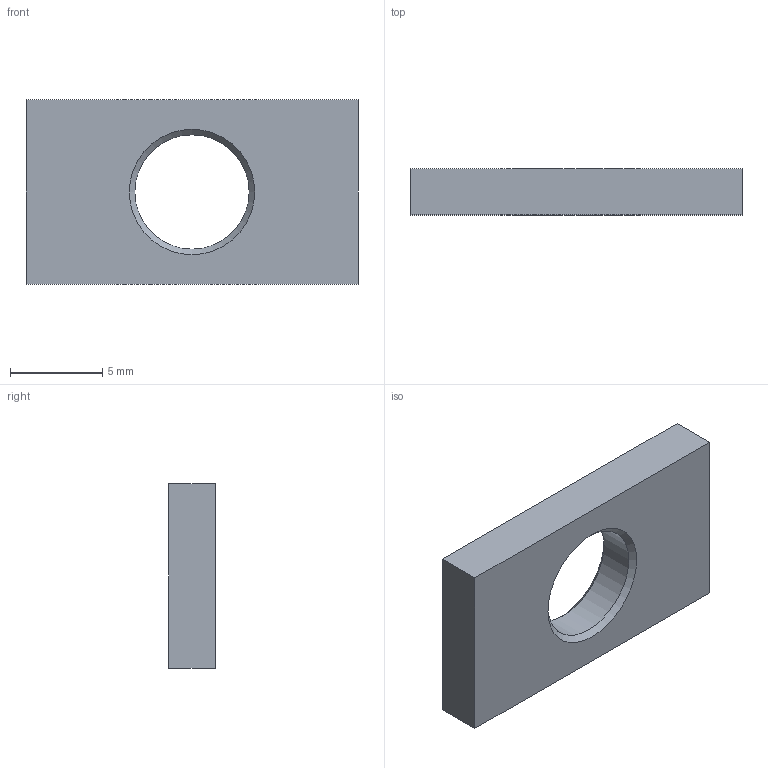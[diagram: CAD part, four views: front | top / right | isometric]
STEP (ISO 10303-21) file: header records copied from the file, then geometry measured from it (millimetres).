
FILE_DESCRIPTION(/* description */ (''),/* implementation_level */ '2;1');
FILE_NAME(/* name */ 'TRAYLOADER.110.stp',/* time_stamp */ '2025-05-13T11:07:49+02:00',/* author */ (''),/* organization */ (''),/* preprocessor_version */ 'ST-DEVELOPER v19.4',/* originating_system */ 'SIEMENS PLM Software NX2306.5001',/* authorisation */ '');
FILE_SCHEMA (('AP203_CONFIGURATION_CONTROLLED_3D_DESIGN_OF_MECHANICAL_PARTS_AND_ASSEMBLIES_MIM_LF { 1 0 10303 403 2 1 2}'));
Length unit declared in the file: millimetre
Products named in the file (1): TRAYLOADER.110_objects
Bounding box: 18 x 2.5 x 10 mm (x, y, z)
Volume: 372.7 mm3; surface area: 481.7 mm2
Topology: 1 solids, 1 shells, 9 faces, 20 edges, 13 vertices
Faces by surface type: plane 6, cone 2, cylinder 1
Full cylindrical faces by diameter (mm): 6.2 x1
Entity records: 316 total; most frequent: DIRECTION 40, CARTESIAN_POINT 38, ORIENTED_EDGE 32, EDGE_CURVE 16, EDGE_LOOP 14, AXIS2_PLACEMENT_3D 14, VERTEX_POINT 12, LINE 12
